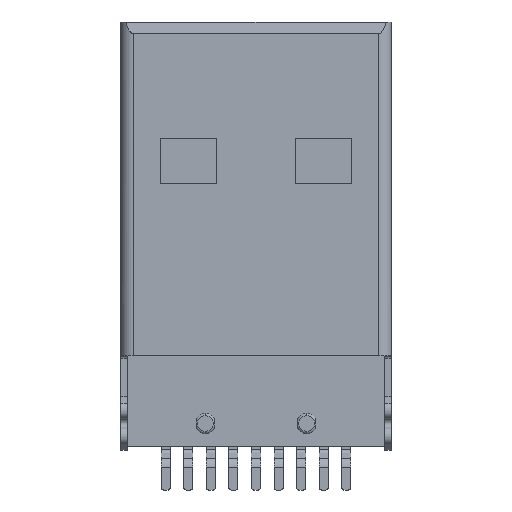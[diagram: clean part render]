
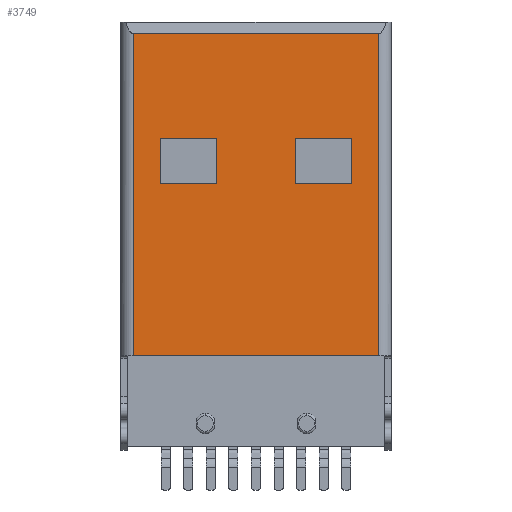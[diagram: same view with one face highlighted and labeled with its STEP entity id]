
A CAD part, front view. The second image highlights one B-rep face of the part: STEP entity #3749.
In plain terms, the highlighted planar face has unit normal (0, -1, 0).
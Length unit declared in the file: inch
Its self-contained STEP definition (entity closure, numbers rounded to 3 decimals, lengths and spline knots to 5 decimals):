
#67 = VERTEX_POINT ( 'NONE', #8295 ) ;
#146 = EDGE_CURVE ( 'NONE', #6282, #546, #760, .T. ) ;
#189 = PLANE ( 'NONE',  #9686 ) ;
#206 = VERTEX_POINT ( 'NONE', #6800 ) ;
#546 = VERTEX_POINT ( 'NONE', #6094 ) ;
#659 = ORIENTED_EDGE ( 'NONE', *, *, #9319, .F. ) ;
#673 = CARTESIAN_POINT ( 'NONE',  ( 0.21457, 0., -0.3014 ) ) ;
#753 = DIRECTION ( 'NONE',  ( 1., 0., 0. ) ) ;
#759 = LINE ( 'NONE', #874, #11369 ) ;
#760 = LINE ( 'NONE', #6909, #6331 ) ;
#815 = DIRECTION ( 'NONE',  ( 0., 0., -1. ) ) ;
#874 = CARTESIAN_POINT ( 'NONE',  ( -0.0689, 0., -0.27196 ) ) ;
#1017 = CARTESIAN_POINT ( 'NONE',  ( 0.23622, 0., -0.58268 ) ) ;
#1309 = VECTOR ( 'NONE', #11298, 39.37008 ) ;
#1548 = CARTESIAN_POINT ( 'NONE',  ( 0.05906, 0., -0.28189 ) ) ;
#1653 = CARTESIAN_POINT ( 'NONE',  ( -0.16732, 0., -0.20315 ) ) ;
#2130 = DIRECTION ( 'NONE',  ( -1., 0., 0. ) ) ;
#2157 = VERTEX_POINT ( 'NONE', #1653 ) ;
#2496 = ORIENTED_EDGE ( 'NONE', *, *, #10688, .T. ) ;
#2517 = VECTOR ( 'NONE', #753, 39.37008 ) ;
#2801 = LINE ( 'NONE', #6308, #2517 ) ;
#3033 = LINE ( 'NONE', #8995, #5863 ) ;
#3249 = CARTESIAN_POINT ( 'NONE',  ( 0.16732, 0., -0.20315 ) ) ;
#3485 = VERTEX_POINT ( 'NONE', #5717 ) ;
#3495 = CARTESIAN_POINT ( 'NONE',  ( 0.05906, 0., -0.20315 ) ) ;
#3503 = VECTOR ( 'NONE', #10040, 39.37008 ) ;
#3685 = CARTESIAN_POINT ( 'NONE',  ( 0.21457, 0., -0.58268 ) ) ;
#3749 = ADVANCED_FACE ( 'NONE', ( #6402, #4545, #9889 ), #189, .T. ) ;
#3847 = ORIENTED_EDGE ( 'NONE', *, *, #10850, .T. ) ;
#3867 = DIRECTION ( 'NONE',  ( 0., 0., 1. ) ) ;
#3894 = DIRECTION ( 'NONE',  ( 0., 0., 1. ) ) ;
#4024 = LINE ( 'NONE', #1548, #8255 ) ;
#4155 = ORIENTED_EDGE ( 'NONE', *, *, #9918, .T. ) ;
#4407 = VECTOR ( 'NONE', #8878, 39.37008 ) ;
#4460 = CARTESIAN_POINT ( 'NONE',  ( -0.16732, 0., -0.27196 ) ) ;
#4462 = LINE ( 'NONE', #1017, #8269 ) ;
#4545 = FACE_BOUND ( 'NONE', #6766, .T. ) ;
#4844 = VERTEX_POINT ( 'NONE', #6514 ) ;
#4988 = CARTESIAN_POINT ( 'NONE',  ( 0.16732, 0., -0.27196 ) ) ;
#5096 = LINE ( 'NONE', #673, #1309 ) ;
#5152 = VERTEX_POINT ( 'NONE', #9705 ) ;
#5477 = CARTESIAN_POINT ( 'NONE',  ( 0.23622, 0., -0.3014 ) ) ;
#5514 = ORIENTED_EDGE ( 'NONE', *, *, #10774, .T. ) ;
#5530 = LINE ( 'NONE', #9073, #6620 ) ;
#5556 = DIRECTION ( 'NONE',  ( -1., 0., 0. ) ) ;
#5717 = CARTESIAN_POINT ( 'NONE',  ( -0.0689, 0., -0.28189 ) ) ;
#5863 = VECTOR ( 'NONE', #3894, 39.37008 ) ;
#5890 = VERTEX_POINT ( 'NONE', #8642 ) ;
#6094 = CARTESIAN_POINT ( 'NONE',  ( 0.0689, 0., -0.20315 ) ) ;
#6103 = EDGE_CURVE ( 'NONE', #5890, #6282, #10716, .T. ) ;
#6135 = EDGE_CURVE ( 'NONE', #546, #8200, #2801, .T. ) ;
#6282 = VERTEX_POINT ( 'NONE', #8900 ) ;
#6308 = CARTESIAN_POINT ( 'NONE',  ( 0.17717, 0., -0.20315 ) ) ;
#6331 = VECTOR ( 'NONE', #11327, 39.37008 ) ;
#6369 = ORIENTED_EDGE ( 'NONE', *, *, #7836, .T. ) ;
#6402 = FACE_OUTER_BOUND ( 'NONE', #8477, .T. ) ;
#6480 = VERTEX_POINT ( 'NONE', #3685 ) ;
#6489 = EDGE_CURVE ( 'NONE', #4844, #67, #5530, .T. ) ;
#6514 = CARTESIAN_POINT ( 'NONE',  ( 0.21457, 0., -0.02013 ) ) ;
#6620 = VECTOR ( 'NONE', #2130, 39.37008 ) ;
#6766 = EDGE_LOOP ( 'NONE', ( #9441, #6369, #5514, #4155 ) ) ;
#6800 = CARTESIAN_POINT ( 'NONE',  ( -0.21457, 0., -0.58268 ) ) ;
#6909 = CARTESIAN_POINT ( 'NONE',  ( 0.0689, 0., -0.27196 ) ) ;
#7224 = DIRECTION ( 'NONE',  ( -1., 0., 0. ) ) ;
#7711 = VECTOR ( 'NONE', #9622, 39.37008 ) ;
#7788 = LINE ( 'NONE', #3495, #7711 ) ;
#7836 = EDGE_CURVE ( 'NONE', #7906, #2157, #9680, .T. ) ;
#7906 = VERTEX_POINT ( 'NONE', #10543 ) ;
#7988 = ORIENTED_EDGE ( 'NONE', *, *, #6135, .T. ) ;
#8187 = CARTESIAN_POINT ( 'NONE',  ( 0.17717, 0., -0.28189 ) ) ;
#8200 = VERTEX_POINT ( 'NONE', #3249 ) ;
#8255 = VECTOR ( 'NONE', #9189, 39.37008 ) ;
#8269 = VECTOR ( 'NONE', #7224, 39.37008 ) ;
#8295 = CARTESIAN_POINT ( 'NONE',  ( -0.21457, 0., -0.02013 ) ) ;
#8477 = EDGE_LOOP ( 'NONE', ( #659, #9966, #3847, #8687 ) ) ;
#8642 = CARTESIAN_POINT ( 'NONE',  ( 0.16732, 0., -0.28189 ) ) ;
#8687 = ORIENTED_EDGE ( 'NONE', *, *, #6489, .T. ) ;
#8878 = DIRECTION ( 'NONE',  ( 0., 0., 1. ) ) ;
#8900 = CARTESIAN_POINT ( 'NONE',  ( 0.0689, 0., -0.28189 ) ) ;
#8965 = DIRECTION ( 'NONE',  ( 0., -1., 0. ) ) ;
#8995 = CARTESIAN_POINT ( 'NONE',  ( -0.21457, 0., -0.3014 ) ) ;
#9073 = CARTESIAN_POINT ( 'NONE',  ( 0.23622, 0., -0.02013 ) ) ;
#9090 = ORIENTED_EDGE ( 'NONE', *, *, #146, .T. ) ;
#9189 = DIRECTION ( 'NONE',  ( -1., 0., 0. ) ) ;
#9232 = EDGE_LOOP ( 'NONE', ( #10341, #9090, #7988, #2496 ) ) ;
#9319 = EDGE_CURVE ( 'NONE', #206, #67, #3033, .T. ) ;
#9441 = ORIENTED_EDGE ( 'NONE', *, *, #10192, .T. ) ;
#9622 = DIRECTION ( 'NONE',  ( 1., 0., 0. ) ) ;
#9673 = VECTOR ( 'NONE', #5556, 39.37008 ) ;
#9680 = LINE ( 'NONE', #4460, #4407 ) ;
#9686 = AXIS2_PLACEMENT_3D ( 'NONE', #5477, #8965, #3867 ) ;
#9705 = CARTESIAN_POINT ( 'NONE',  ( -0.0689, 0., -0.20315 ) ) ;
#9889 = FACE_BOUND ( 'NONE', #9232, .T. ) ;
#9918 = EDGE_CURVE ( 'NONE', #5152, #3485, #759, .T. ) ;
#9966 = ORIENTED_EDGE ( 'NONE', *, *, #10884, .F. ) ;
#10040 = DIRECTION ( 'NONE',  ( 0., 0., -1. ) ) ;
#10192 = EDGE_CURVE ( 'NONE', #3485, #7906, #4024, .T. ) ;
#10341 = ORIENTED_EDGE ( 'NONE', *, *, #6103, .T. ) ;
#10543 = CARTESIAN_POINT ( 'NONE',  ( -0.16732, 0., -0.28189 ) ) ;
#10688 = EDGE_CURVE ( 'NONE', #8200, #5890, #11070, .T. ) ;
#10716 = LINE ( 'NONE', #8187, #9673 ) ;
#10774 = EDGE_CURVE ( 'NONE', #2157, #5152, #7788, .T. ) ;
#10850 = EDGE_CURVE ( 'NONE', #6480, #4844, #5096, .T. ) ;
#10884 = EDGE_CURVE ( 'NONE', #6480, #206, #4462, .T. ) ;
#11070 = LINE ( 'NONE', #4988, #3503 ) ;
#11298 = DIRECTION ( 'NONE',  ( 0., 0., 1. ) ) ;
#11327 = DIRECTION ( 'NONE',  ( 0., 0., 1. ) ) ;
#11369 = VECTOR ( 'NONE', #815, 39.37008 ) ;
